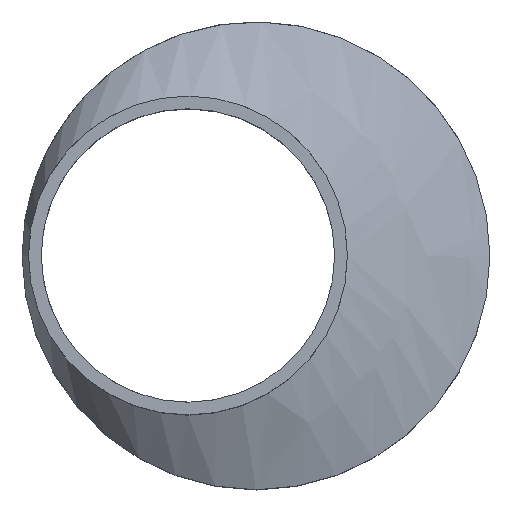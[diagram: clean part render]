
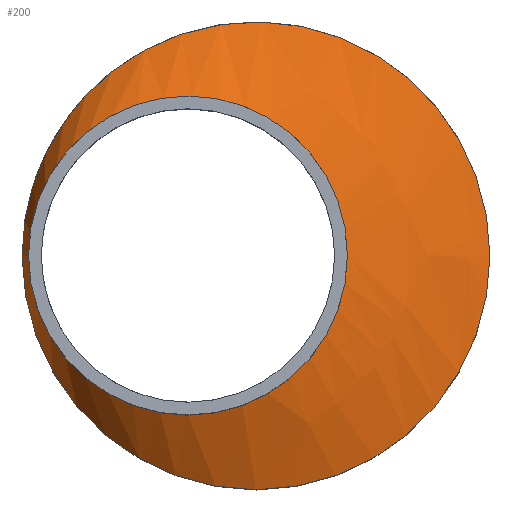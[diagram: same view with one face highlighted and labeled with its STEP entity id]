
A CAD part, top view. The second image highlights one B-rep face of the part: STEP entity #200.
In plain terms, the highlighted free-form (B-spline) face has degree [1, 2] with [2, 9] control points.
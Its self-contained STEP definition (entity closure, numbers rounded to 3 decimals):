
#15=B_SPLINE_CURVE_WITH_KNOTS($,1,(#381,#382),.UNSPECIFIED.,.F.,.F.,(2,
2),(-0.387,0.),.UNSPECIFIED.);
#17=(
BOUNDED_SURFACE()
B_SPLINE_SURFACE(1,2,((#359,#360,#361,#362,#363,#364,#365,#366,#367),(#368,
#369,#370,#371,#372,#373,#374,#375,#376)),.UNSPECIFIED.,.F.,.T.,.F.)
B_SPLINE_SURFACE_WITH_KNOTS((2,2),(3,2,2,2,3),(-1.966,0.715),
(-3.142,-1.571,0.,1.571,3.142),
 .UNSPECIFIED.)
GEOMETRIC_REPRESENTATION_ITEM()
RATIONAL_B_SPLINE_SURFACE(((1.,0.707,1.,0.707,1.,
0.707,1.,0.707,1.),(1.,0.707,1.,0.707,
1.,0.707,1.,0.707,1.)))
REPRESENTATION_ITEM($)
SURFACE()
);
#47=FACE_OUTER_BOUND($,#67,.T.);
#67=EDGE_LOOP($,(#157,#158,#159,#160,#161,#162));
#83=CIRCLE($,#221,55.);
#84=CIRCLE($,#222,55.);
#91=CIRCLE($,#231,37.5);
#92=CIRCLE($,#232,37.5);
#101=VERTEX_POINT($,#321);
#102=VERTEX_POINT($,#322);
#109=VERTEX_POINT($,#377);
#110=VERTEX_POINT($,#378);
#119=EDGE_CURVE($,#101,#102,#83,.T.);
#120=EDGE_CURVE($,#102,#101,#84,.T.);
#128=EDGE_CURVE($,#109,#110,#91,.T.);
#129=EDGE_CURVE($,#110,#109,#92,.T.);
#130=EDGE_CURVE($,#110,#102,#15,.T.);
#157=ORIENTED_EDGE($,*,*,#128,.F.);
#158=ORIENTED_EDGE($,*,*,#129,.F.);
#159=ORIENTED_EDGE($,*,*,#130,.T.);
#160=ORIENTED_EDGE($,*,*,#119,.F.);
#161=ORIENTED_EDGE($,*,*,#120,.F.);
#162=ORIENTED_EDGE($,*,*,#130,.F.);
#200=ADVANCED_FACE($,(#47),#17,.F.);
#221=AXIS2_PLACEMENT_3D($,#323,#266,#267);
#222=AXIS2_PLACEMENT_3D($,#324,#268,#269);
#231=AXIS2_PLACEMENT_3D($,#379,#286,#287);
#232=AXIS2_PLACEMENT_3D($,#380,#288,#289);
#266=DIRECTION('center_axis',(0.,0.,-1.));
#267=DIRECTION('ref_axis',(-1.,0.,0.));
#268=DIRECTION('center_axis',(0.,0.,-1.));
#269=DIRECTION('ref_axis',(-1.,0.,0.));
#286=DIRECTION('center_axis',(0.,0.,1.));
#287=DIRECTION('ref_axis',(-1.,0.,0.));
#288=DIRECTION('center_axis',(0.,0.,1.));
#289=DIRECTION('ref_axis',(-1.,0.,0.));
#321=CARTESIAN_POINT('',(55.,0.,37.));
#322=CARTESIAN_POINT('',(-33.974,43.253,37.));
#323=CARTESIAN_POINT('Origin',(0.,0.,37.));
#324=CARTESIAN_POINT('Origin',(0.,0.,37.));
#359=CARTESIAN_POINT('Ctrl Pts',(-7.617,113.138,-3.625));
#360=CARTESIAN_POINT('Ctrl Pts',(-70.234,113.138,-44.249));
#361=CARTESIAN_POINT('Ctrl Pts',(-70.234,0.,
-44.249));
#362=CARTESIAN_POINT('Ctrl Pts',(-70.234,-113.138,-44.249));
#363=CARTESIAN_POINT('Ctrl Pts',(-7.617,-113.138,-3.625));
#364=CARTESIAN_POINT('Ctrl Pts',(55.,-113.138,37.));
#365=CARTESIAN_POINT('Ctrl Pts',(55.,0.,37.));
#366=CARTESIAN_POINT('Ctrl Pts',(55.,113.138,37.));
#367=CARTESIAN_POINT('Ctrl Pts',(-7.617,113.138,-3.625));
#368=CARTESIAN_POINT('Ctrl Pts',(-43.561,17.831,51.778));
#369=CARTESIAN_POINT('Ctrl Pts',(-53.43,17.831,45.375));
#370=CARTESIAN_POINT('Ctrl Pts',(-53.43,0.,45.375));
#371=CARTESIAN_POINT('Ctrl Pts',(-53.43,-17.831,45.375));
#372=CARTESIAN_POINT('Ctrl Pts',(-43.561,-17.831,51.778));
#373=CARTESIAN_POINT('Ctrl Pts',(-33.693,-17.831,58.18));
#374=CARTESIAN_POINT('Ctrl Pts',(-33.693,0.,58.18));
#375=CARTESIAN_POINT('Ctrl Pts',(-33.693,17.831,58.18));
#376=CARTESIAN_POINT('Ctrl Pts',(-43.561,17.831,51.778));
#377=CARTESIAN_POINT('',(21.5,0.,45.));
#378=CARTESIAN_POINT('',(-39.164,29.49,45.));
#379=CARTESIAN_POINT('Origin',(-16.,0.,45.));
#380=CARTESIAN_POINT('Origin',(-16.,0.,45.));
#381=CARTESIAN_POINT('Ctrl Pts',(-39.164,29.49,45.));
#382=CARTESIAN_POINT('Ctrl Pts',(-33.974,43.253,37.));
